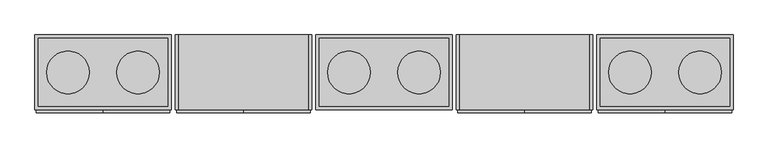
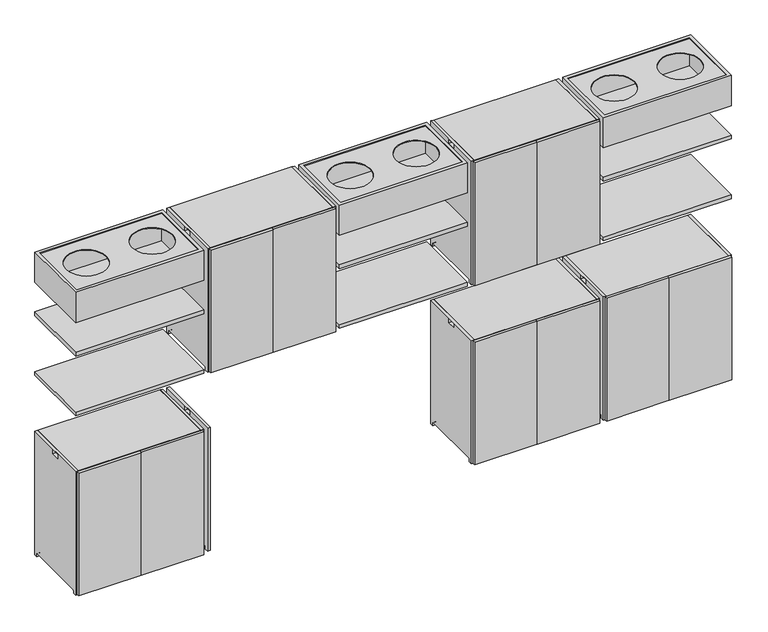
"""IFC4 building model written with IfcOpenShell, lengths in millimetres: furniture geometry, MAKR_TEMPLATE_800mmL : MAKR_TEMPLATE_800mmL."""

from ifc_helpers import new_model, si_unit, point, frame, frame_2d, origin, place, context, project, spatial, polyline, circle_curve, trimmed, segment, composite_curve, outline, extrude, source, transform, mapped, element, save
from ifc_brep_helpers import plane_surface, revolved_surface, advanced_brep


def furniture_05af1f72(model_context):
    return source(origin(), model_context, "Body", "SolidModel", [
        extrude(outline(polyline([(1250.0, 218.5217186), (2050.0, 218.5217186), (2050.0, -221.4782814), (1250.0, -221.4782814), (1250.0, 218.5217186)])), frame((0.0, 0.0, 1274.0), z_axis=(0.0, 0.0, 1.0), x_axis=(1.0, 0.0, 0.0)), (0.0, 0.0, 1.0), 25.0),
        extrude(outline(polyline([(-1250.0, 218.5217186), (-1250.0, -221.4782814), (-2050.0, -221.4782814), (-2050.0, 218.5217186), (-1250.0, 218.5217186)])), frame((0.0, 0.0, 1274.0), z_axis=(0.0, 0.0, 1.0), x_axis=(1.0, 0.0, 0.0)), (0.0, 0.0, 1.0), 25.0),
        extrude(outline(polyline([(400.0, 218.5217186), (400.0, -221.4782814), (-400.0, -221.4782814), (-400.0, 218.5217186), (400.0, 218.5217186)])), frame((0.0, 0.0, 1274.0), z_axis=(0.0, 0.0, 1.0), x_axis=(1.0, 0.0, 0.0)), (0.0, 0.0, 1.0), 25.0),
        extrude(outline(polyline([(1250.0, 218.5217186), (2050.0, 218.5217186), (2050.0, -221.4782814), (1250.0, -221.4782814), (1250.0, 218.5217186)])), frame((0.0, 0.0, 1669.0), z_axis=(0.0, 0.0, 1.0), x_axis=(1.0, 0.0, 0.0)), (0.0, 0.0, 1.0), 25.0),
        extrude(outline(polyline([(-1250.0, 218.5217186), (-1250.0, -221.4782814), (-2050.0, -221.4782814), (-2050.0, 218.5217186), (-1250.0, 218.5217186)])), frame((0.0, 0.0, 1669.0), z_axis=(0.0, 0.0, 1.0), x_axis=(1.0, 0.0, 0.0)), (0.0, 0.0, 1.0), 25.0),
        extrude(outline(polyline([(400.0, 218.5217186), (400.0, -221.4782814), (-400.0, -221.4782814), (-400.0, 218.5217186), (400.0, 218.5217186)])), frame((0.0, 0.0, 1669.0), z_axis=(0.0, 0.0, 1.0), x_axis=(1.0, 0.0, 0.0)), (0.0, 0.0, 1.0), 25.0),
        extrude(outline(polyline([(1250.0, 218.5217186), (2050.0, 218.5217186), (2050.0, -221.4782814), (1250.0, -221.4782814), (1250.0, 218.5217186)]), holes=[polyline([(2030.0, 198.5217186), (1270.0, 198.5217186), (1270.0, -201.4782814), (2030.0, -201.4782814), (2030.0, 198.5217186)])]), frame((0.0, 0.0, 1889.0), z_axis=(0.0, 0.0, 1.0), x_axis=(1.0, 0.0, 0.0)), (0.0, 0.0, 1.0), 200.0),
        extrude(outline(polyline([(1270.0, 198.5217186), (2030.0, 198.5217186), (2030.0, -201.4782814), (1270.0, -201.4782814), (1270.0, 198.5217186)])), frame((0.0, 0.0, 1889.0), z_axis=(0.0, 0.0, 1.0), x_axis=(1.0, 0.0, 0.0)), (0.0, 0.0, 1.0), 15.0),
        extrude(outline(polyline([(1270.0, 198.5217186), (2030.0, 198.5217186), (2030.0, -201.4782814), (1270.0, -201.4782814), (1270.0, 198.5217186)]), holes=[composite_curve([segment(trimmed(circle_curve(frame_2d((1856.0, -1.4782814)), 125.0), [point((1981.0, -1.4782814))], [point((1731.0, -1.4782814))], True, "CARTESIAN"), True, "CONTINUOUS"), segment(trimmed(circle_curve(frame_2d((1856.0, -1.4782814)), 125.0), [point((1731.0, -1.4782814))], [point((1981.0, -1.4782814))], True, "CARTESIAN"), True, "CONTINUOUS")], self_intersect=False), composite_curve([segment(trimmed(circle_curve(frame_2d((1444.0, -1.4782814)), 125.0), [point((1569.0, -1.4782814))], [point((1319.0, -1.4782814))], True, "CARTESIAN"), True, "CONTINUOUS"), segment(trimmed(circle_curve(frame_2d((1444.0, -1.4782814)), 125.0), [point((1319.0, -1.4782814))], [point((1569.0, -1.4782814))], True, "CARTESIAN"), True, "CONTINUOUS")], self_intersect=False)]), frame((0.0, 0.0, 2080.4363245), z_axis=(0.0, 0.0, 1.0), x_axis=(1.0, 0.0, 0.0)), (0.0, 0.0, 1.0), 3.5636755),
        extrude(outline(composite_curve([segment(polyline([(218.5217186, 2089.0), (218.5217186, 1274.0), (196.5217186, 1274.0), (196.5217186, 1291.0)]), True, "CONTINUOUS"), segment(trimmed(circle_curve(frame_2d((192.5217186, 1291.0)), 4.0), [point((196.5217186, 1291.0))], [point((192.5217186, 1295.0))], True, "CARTESIAN"), True, "CONTINUOUS"), segment(polyline([(192.5217186, 1295.0), (-195.4782814, 1295.0)]), True, "CONTINUOUS"), segment(trimmed(circle_curve(frame_2d((-195.4782814, 1291.0)), 4.0), [point((-195.4782814, 1295.0))], [point((-199.4782814, 1291.0))], True, "CARTESIAN"), True, "CONTINUOUS"), segment(polyline([(-199.4782814, 1291.0), (-199.4782814, 1274.0), (-221.4782814, 1274.0), (-221.4782814, 2089.0), (218.5217186, 2089.0)]), True, "CONTINUOUS")], self_intersect=False), holes=[polyline([(-27.4782814, 2059.0), (24.5217186, 2059.0), (24.5217186, 2084.0), (-27.4782814, 2084.0), (-27.4782814, 2059.0)])]), frame((1207.0, 0.0, 0.0), z_axis=(1.0, 0.0, 0.0), x_axis=(0.0, 1.0, 0.0)), (0.0, 0.0, 1.0), 18.0),
        advanced_brep(
        [(443.0, 218.5217186, 1292.0), (443.0, -221.4782814, 1292.0), (1207.0, -221.4782814, 1292.0), (1207.0, -199.3512647, 1292.0), (1201.1019215, -199.3512647, 1292.0), (1201.1019215, 196.394702, 1292.0), (1207.0, 196.394702, 1292.0), (1207.0, 218.5217186, 1292.0), (443.0, 218.5217186, 1274.0), (1207.0, 218.5217186, 1274.0), (1207.0, 196.5217186, 1274.0), (1201.1019215, 196.5217186, 1274.0), (1201.1019215, -199.4782814, 1274.0), (1207.0, -199.4782814, 1274.0), (1207.0, -221.4782814, 1274.0), (443.0, -221.4782814, 1274.0), (1207.0, 196.5217186, 1291.0), (1207.0, -199.4782814, 1291.0), (1201.1019215, 196.5217186, 1291.0), (1201.1019215, -199.4782814, 1291.0)],
        [
            (0, 1),
            (1, 2),
            (2, 3),
            (3, 4),
            (4, 5),
            (5, 6),
            (6, 7),
            (7, 0),
            (8, 9),
            (9, 10),
            (10, 11),
            (11, 12),
            (12, 13),
            (13, 14),
            (14, 15),
            (15, 8),
            (7, 9),
            (8, 0),
            (6, 16, circle_curve(frame((1207.0, 192.5217186, 1291.0), z_axis=(-1.0, 0.0, 0.0), x_axis=(0.0, 1.0, 0.0)), 4.0)),
            (16, 10),
            (13, 17),
            (17, 3, circle_curve(frame((1207.0, -195.4782814, 1291.0), z_axis=(-1.0, 0.0, 0.0), x_axis=(0.0, 1.0, 0.0)), 4.0)),
            (2, 14),
            (1, 15),
            (18, 5, circle_curve(frame((1201.1019215, 192.5217186, 1291.0), z_axis=(1.0, 0.0, 0.0), x_axis=(0.0, 1.0, 0.0)), 4.0)),
            (4, 19, circle_curve(frame((1201.1019215, -195.4782814, 1291.0), z_axis=(1.0, 0.0, 0.0), x_axis=(0.0, 1.0, 0.0)), 4.0)),
            (19, 12),
            (11, 18),
            (17, 19),
            (16, 18),
        ],
        [
            plane_surface(frame((1207.0, 218.5217186, 1292.0), z_axis=(0.0, 0.0, 1.0), x_axis=(1.0, 0.0, 0.0))),
            plane_surface(frame((1207.0, 218.5217186, 1274.0), z_axis=(0.0, 0.0, -1.0), x_axis=(-1.0, 0.0, 0.0))),
            plane_surface(frame((443.0, 218.5217186, 1292.0), z_axis=(0.0, 1.0, 0.0), x_axis=(0.0, 0.0, -1.0))),
            plane_surface(frame((1207.0, 218.5217186, 1292.0), z_axis=(1.0, 0.0, 0.0), x_axis=(0.0, 0.0, -1.0))),
            plane_surface(frame((1207.0, -221.4782814, 1292.0), z_axis=(0.0, -1.0, 0.0), x_axis=(0.0, 0.0, -1.0))),
            plane_surface(frame((443.0, -221.4782814, 1292.0), z_axis=(-1.0, 0.0, 0.0), x_axis=(0.0, 0.0, -1.0))),
            plane_surface(frame((1201.1019215, -191.4782814, 1291.0), z_axis=(1.0, 0.0, 0.0), x_axis=(0.0, 0.0, 1.0))),
            revolved_surface(polyline([(1201.1019215, -191.4782814, 1291.0), (1207.0, -191.4782814, 1291.0)]), (1231.0458228, -195.4782814, 1291.0), (-1.0, 0.0, 0.0)),
            plane_surface(frame((1201.1019215, -199.4782814, 1291.0), z_axis=(0.0, 1.0, 0.0), x_axis=(1.0, 0.0, 0.0))),
            plane_surface(frame((1201.1019215, 196.5217186, 1274.0), z_axis=(0.0, -1.0, 0.0), x_axis=(1.0, 0.0, 0.0))),
            revolved_surface(polyline([(1201.1019215, 196.5217186, 1291.0), (1207.0, 196.5217186, 1291.0)]), (1231.0458228, 192.5217186, 1291.0), (-1.0, 0.0, 0.0)),
        ],
        [
            (0, [[1, 2, 3, 4, 5, 6, 7, 8]]),
            (1, [[9, 10, 11, 12, 13, 14, 15, 16]]),
            (2, [[17, -9, 18, -8]]),
            (3, [[-7, 19, 20, -10, -17]]),
            (3, [[-14, 21, 22, -3, 23]]),
            (4, [[24, -15, -23, -2]]),
            (5, [[-18, -16, -24, -1]]),
            (6, [[25, -5, 26, 27, -12, 28]]),
            (7, [[-4, -22, 29, -26]]),
            (8, [[-29, -21, -13, -27]]),
            (9, [[-11, -20, 30, -28]]),
            (10, [[-30, -19, -6, -25]]),
        ],
    ),
        extrude(outline(composite_curve([segment(polyline([(218.5217186, 2089.0), (218.5217186, 1274.0), (196.5217186, 1274.0), (196.5217186, 1291.0)]), True, "CONTINUOUS"), segment(trimmed(circle_curve(frame_2d((192.5217186, 1291.0)), 4.0), [point((196.5217186, 1291.0))], [point((192.5217186, 1295.0))], True, "CARTESIAN"), True, "CONTINUOUS"), segment(polyline([(192.5217186, 1295.0), (-195.4782814, 1295.0)]), True, "CONTINUOUS"), segment(trimmed(circle_curve(frame_2d((-195.4782814, 1291.0)), 4.0), [point((-195.4782814, 1295.0))], [point((-199.4782814, 1291.0))], True, "CARTESIAN"), True, "CONTINUOUS"), segment(polyline([(-199.4782814, 1291.0), (-199.4782814, 1274.0), (-221.4782814, 1274.0), (-221.4782814, 2089.0), (218.5217186, 2089.0)]), True, "CONTINUOUS")], self_intersect=False), holes=[polyline([(-27.4782814, 2059.0), (24.5217186, 2059.0), (24.5217186, 2084.0), (-27.4782814, 2084.0), (-27.4782814, 2059.0)])]), frame((425.0, 0.0, 0.0), z_axis=(1.0, 0.0, 0.0), x_axis=(0.0, 1.0, 0.0)), (0.0, 0.0, 1.0), 18.0),
        extrude(outline(polyline([(443.0, 218.5217186), (1207.0, 218.5217186), (1207.0, 200.5217186), (443.0, 200.5217186), (443.0, 218.5217186)])), frame((0.0, 0.0, 1292.0), z_axis=(0.0, 0.0, 1.0), x_axis=(1.0, 0.0, 0.0)), (0.0, 0.0, 1.0), 779.0),
        extrude(outline(polyline([(443.0, 200.5217186), (1207.0, 200.5217186), (1207.0, -221.4782814), (443.0, -221.4782814), (443.0, 200.5217186)])), frame((0.0, 0.0, 1672.5), z_axis=(0.0, 0.0, 1.0), x_axis=(1.0, 0.0, 0.0)), (0.0, 0.0, 1.0), 18.0),
        extrude(outline(polyline([(443.0, 218.5217186), (1207.0, 218.5217186), (1207.0, -221.4782814), (443.0, -221.4782814), (443.0, 218.5217186)])), frame((0.0, 0.0, 2071.0), z_axis=(0.0, 0.0, 1.0), x_axis=(1.0, 0.0, 0.0)), (0.0, 0.0, 1.0), 18.0),
        extrude(outline(polyline([(816.0, 200.5217186), (834.0, 200.5217186), (834.0, -221.4782814), (816.0, -221.4782814), (816.0, 200.5217186)])), frame((0.0, 0.0, 1292.0), z_axis=(0.0, 0.0, 1.0), x_axis=(1.0, 0.0, 0.0)), (0.0, 0.0, 1.0), 779.0),
        extrude(outline(polyline([(434.0, -221.4782814), (824.0, -221.4782814), (824.0, -239.4782814), (434.0, -239.4782814), (434.0, -221.4782814)])), frame((0.0, 0.0, 1276.0), z_axis=(0.0, 0.0, 1.0), x_axis=(1.0, 0.0, 0.0)), (0.0, 0.0, 1.0), 811.0),
        extrude(outline(polyline([(1216.0, -221.4782814), (1216.0, -239.4782814), (826.0, -239.4782814), (826.0, -221.4782814), (1216.0, -221.4782814)])), frame((0.0, 0.0, 1276.0), z_axis=(0.0, 0.0, 1.0), x_axis=(1.0, 0.0, 0.0)), (0.0, 0.0, 1.0), 811.0),
        extrude(outline(polyline([(-1250.0, 218.5217186), (-1250.0, -221.4782814), (-2050.0, -221.4782814), (-2050.0, 218.5217186), (-1250.0, 218.5217186)]), holes=[polyline([(-2030.0, 198.5217186), (-2030.0, -201.4782814), (-1270.0, -201.4782814), (-1270.0, 198.5217186), (-2030.0, 198.5217186)])]), frame((0.0, 0.0, 1889.0), z_axis=(0.0, 0.0, 1.0), x_axis=(1.0, 0.0, 0.0)), (0.0, 0.0, 1.0), 200.0),
        extrude(outline(polyline([(-1270.0, 198.5217186), (-1270.0, -201.4782814), (-2030.0, -201.4782814), (-2030.0, 198.5217186), (-1270.0, 198.5217186)])), frame((0.0, 0.0, 1889.0), z_axis=(0.0, 0.0, 1.0), x_axis=(1.0, 0.0, 0.0)), (0.0, 0.0, 1.0), 15.0),
        extrude(outline(polyline([(-1270.0, 198.5217186), (-1270.0, -201.4782814), (-2030.0, -201.4782814), (-2030.0, 198.5217186), (-1270.0, 198.5217186)]), holes=[composite_curve([segment(trimmed(circle_curve(frame_2d((-1856.0, -1.4782814)), 125.0), [point((-1981.0, -1.4782814))], [point((-1731.0, -1.4782814))], True, "CARTESIAN"), True, "CONTINUOUS"), segment(trimmed(circle_curve(frame_2d((-1856.0, -1.4782814)), 125.0), [point((-1731.0, -1.4782814))], [point((-1981.0, -1.4782814))], True, "CARTESIAN"), True, "CONTINUOUS")], self_intersect=False), composite_curve([segment(trimmed(circle_curve(frame_2d((-1444.0, -1.4782814)), 125.0), [point((-1569.0, -1.4782814))], [point((-1319.0, -1.4782814))], True, "CARTESIAN"), True, "CONTINUOUS"), segment(trimmed(circle_curve(frame_2d((-1444.0, -1.4782814)), 125.0), [point((-1319.0, -1.4782814))], [point((-1569.0, -1.4782814))], True, "CARTESIAN"), True, "CONTINUOUS")], self_intersect=False)]), frame((0.0, 0.0, 2080.4363245), z_axis=(0.0, 0.0, 1.0), x_axis=(1.0, 0.0, 0.0)), (0.0, 0.0, 1.0), 3.5636755),
        extrude(outline(composite_curve([segment(polyline([(-221.4782814, 2089.0), (218.5217186, 2089.0), (218.5217186, 1274.0), (196.5217186, 1274.0), (196.5217186, 1291.0)]), True, "CONTINUOUS"), segment(trimmed(circle_curve(frame_2d((192.5217186, 1291.0)), 4.0), [point((196.5217186, 1291.0))], [point((192.5217186, 1295.0))], True, "CARTESIAN"), True, "CONTINUOUS"), segment(polyline([(192.5217186, 1295.0), (-195.4782814, 1295.0)]), True, "CONTINUOUS"), segment(trimmed(circle_curve(frame_2d((-195.4782814, 1291.0)), 4.0), [point((-195.4782814, 1295.0))], [point((-199.4782814, 1291.0))], True, "CARTESIAN"), True, "CONTINUOUS"), segment(polyline([(-199.4782814, 1291.0), (-199.4782814, 1274.0), (-221.4782814, 1274.0), (-221.4782814, 2089.0)]), True, "CONTINUOUS")], self_intersect=False), holes=[polyline([(-27.4782814, 2084.0), (-27.4782814, 2059.0), (24.5217186, 2059.0), (24.5217186, 2084.0), (-27.4782814, 2084.0)])]), frame((-1225.0, 0.0, 0.0), z_axis=(1.0, 0.0, 0.0), x_axis=(0.0, 1.0, 0.0)), (0.0, 0.0, 1.0), 18.0),
        advanced_brep(
        [(-443.0, 218.5217186, 1292.0), (-1207.0, 218.5217186, 1292.0), (-1207.0, 196.394702, 1292.0), (-1201.1019215, 196.394702, 1292.0), (-1201.1019215, -199.3512647, 1292.0), (-1207.0, -199.3512647, 1292.0), (-1207.0, -221.4782814, 1292.0), (-443.0, -221.4782814, 1292.0), (-443.0, 218.5217186, 1274.0), (-443.0, -221.4782814, 1274.0), (-1207.0, -221.4782814, 1274.0), (-1207.0, -199.4782814, 1274.0), (-1201.1019215, -199.4782814, 1274.0), (-1201.1019215, 196.5217186, 1274.0), (-1207.0, 196.5217186, 1274.0), (-1207.0, 218.5217186, 1274.0), (-1207.0, 196.5217186, 1291.0), (-1207.0, -199.4782814, 1291.0), (-1201.1019215, 196.5217186, 1291.0), (-1201.1019215, -199.4782814, 1291.0)],
        [
            (0, 1),
            (1, 2),
            (2, 3),
            (3, 4),
            (4, 5),
            (5, 6),
            (6, 7),
            (7, 0),
            (8, 9),
            (9, 10),
            (10, 11),
            (11, 12),
            (12, 13),
            (13, 14),
            (14, 15),
            (15, 8),
            (0, 8),
            (15, 1),
            (14, 16),
            (16, 2, circle_curve(frame((-1207.0, 192.5217186, 1291.0), z_axis=(1.0, 0.0, 0.0), x_axis=(0.0, 1.0, 0.0)), 4.0)),
            (10, 6),
            (5, 17, circle_curve(frame((-1207.0, -195.4782814, 1291.0), z_axis=(1.0, 0.0, 0.0), x_axis=(0.0, 1.0, 0.0)), 4.0)),
            (17, 11),
            (9, 7),
            (18, 13),
            (12, 19),
            (19, 4, circle_curve(frame((-1201.1019215, -195.4782814, 1291.0), z_axis=(-1.0, 0.0, 0.0), x_axis=(0.0, 1.0, 0.0)), 4.0)),
            (3, 18, circle_curve(frame((-1201.1019215, 192.5217186, 1291.0), z_axis=(-1.0, 0.0, 0.0), x_axis=(0.0, 1.0, 0.0)), 4.0)),
            (19, 17),
            (18, 16),
        ],
        [
            plane_surface(frame((-1207.0, 218.5217186, 1292.0), z_axis=(0.0, 0.0, 1.0), x_axis=(-1.0, 0.0, 0.0))),
            plane_surface(frame((-1207.0, 218.5217186, 1274.0), z_axis=(0.0, 0.0, -1.0), x_axis=(1.0, 0.0, 0.0))),
            plane_surface(frame((-443.0, 218.5217186, 1292.0), z_axis=(0.0, 1.0, 0.0), x_axis=(0.0, 0.0, -1.0))),
            plane_surface(frame((-1207.0, 218.5217186, 1292.0), z_axis=(-1.0, 0.0, 0.0), x_axis=(0.0, 0.0, -1.0))),
            plane_surface(frame((-1207.0, -221.4782814, 1292.0), z_axis=(0.0, -1.0, 0.0), x_axis=(0.0, 0.0, -1.0))),
            plane_surface(frame((-443.0, -221.4782814, 1292.0), z_axis=(1.0, 0.0, 0.0), x_axis=(0.0, 0.0, -1.0))),
            plane_surface(frame((-1201.1019215, -191.4782814, 1291.0), z_axis=(-1.0, 0.0, 0.0), x_axis=(0.0, 0.0, 1.0))),
            revolved_surface(polyline([(-1201.1019215, -191.4782814, 1291.0), (-1207.0, -191.4782814, 1291.0)]), (-1231.0458228, -195.4782814, 1291.0), (1.0, 0.0, 0.0)),
            plane_surface(frame((-1201.1019215, -199.4782814, 1291.0), z_axis=(0.0, 1.0, 0.0), x_axis=(-1.0, 0.0, 0.0))),
            plane_surface(frame((-1201.1019215, 196.5217186, 1274.0), z_axis=(0.0, -1.0, 0.0), x_axis=(-1.0, 0.0, 0.0))),
            revolved_surface(polyline([(-1201.1019215, 196.5217186, 1291.0), (-1207.0, 196.5217186, 1291.0)]), (-1231.0458228, 192.5217186, 1291.0), (1.0, 0.0, 0.0)),
        ],
        [
            (0, [[1, 2, 3, 4, 5, 6, 7, 8]]),
            (1, [[9, 10, 11, 12, 13, 14, 15, 16]]),
            (2, [[-1, 17, -16, 18]]),
            (3, [[-18, -15, 19, 20, -2]]),
            (3, [[21, -6, 22, 23, -11]]),
            (4, [[-7, -21, -10, 24]]),
            (5, [[-8, -24, -9, -17]]),
            (6, [[25, -13, 26, 27, -4, 28]]),
            (7, [[-27, 29, -22, -5]]),
            (8, [[-26, -12, -23, -29]]),
            (9, [[-25, 30, -19, -14]]),
            (10, [[-28, -3, -20, -30]]),
        ],
    ),
        extrude(outline(composite_curve([segment(polyline([(-221.4782814, 2089.0), (218.5217186, 2089.0), (218.5217186, 1274.0), (196.5217186, 1274.0), (196.5217186, 1291.0)]), True, "CONTINUOUS"), segment(trimmed(circle_curve(frame_2d((192.5217186, 1291.0)), 4.0), [point((196.5217186, 1291.0))], [point((192.5217186, 1295.0))], True, "CARTESIAN"), True, "CONTINUOUS"), segment(polyline([(192.5217186, 1295.0), (-195.4782814, 1295.0)]), True, "CONTINUOUS"), segment(trimmed(circle_curve(frame_2d((-195.4782814, 1291.0)), 4.0), [point((-195.4782814, 1295.0))], [point((-199.4782814, 1291.0))], True, "CARTESIAN"), True, "CONTINUOUS"), segment(polyline([(-199.4782814, 1291.0), (-199.4782814, 1274.0), (-221.4782814, 1274.0), (-221.4782814, 2089.0)]), True, "CONTINUOUS")], self_intersect=False), holes=[polyline([(-27.4782814, 2084.0), (-27.4782814, 2059.0), (24.5217186, 2059.0), (24.5217186, 2084.0), (-27.4782814, 2084.0)])]), frame((-443.0, 0.0, 0.0), z_axis=(1.0, 0.0, 0.0), x_axis=(0.0, 1.0, 0.0)), (0.0, 0.0, 1.0), 18.0),
        extrude(outline(polyline([(-443.0, 218.5217186), (-443.0, 200.5217186), (-1207.0, 200.5217186), (-1207.0, 218.5217186), (-443.0, 218.5217186)])), frame((0.0, 0.0, 1292.0), z_axis=(0.0, 0.0, 1.0), x_axis=(1.0, 0.0, 0.0)), (0.0, 0.0, 1.0), 779.0),
        extrude(outline(polyline([(-443.0, 200.5217186), (-443.0, -221.4782814), (-1207.0, -221.4782814), (-1207.0, 200.5217186), (-443.0, 200.5217186)])), frame((0.0, 0.0, 1672.5), z_axis=(0.0, 0.0, 1.0), x_axis=(1.0, 0.0, 0.0)), (0.0, 0.0, 1.0), 18.0),
        extrude(outline(polyline([(-443.0, 218.5217186), (-443.0, -221.4782814), (-1207.0, -221.4782814), (-1207.0, 218.5217186), (-443.0, 218.5217186)])), frame((0.0, 0.0, 2071.0), z_axis=(0.0, 0.0, 1.0), x_axis=(1.0, 0.0, 0.0)), (0.0, 0.0, 1.0), 18.0),
        extrude(outline(polyline([(-816.0, 200.5217186), (-816.0, -221.4782814), (-834.0, -221.4782814), (-834.0, 200.5217186), (-816.0, 200.5217186)])), frame((0.0, 0.0, 1292.0), z_axis=(0.0, 0.0, 1.0), x_axis=(1.0, 0.0, 0.0)), (0.0, 0.0, 1.0), 779.0),
        extrude(outline(polyline([(-434.0, -221.4782814), (-434.0, -239.4782814), (-824.0, -239.4782814), (-824.0, -221.4782814), (-434.0, -221.4782814)])), frame((0.0, 0.0, 1276.0), z_axis=(0.0, 0.0, 1.0), x_axis=(1.0, 0.0, 0.0)), (0.0, 0.0, 1.0), 811.0),
        extrude(outline(polyline([(-1216.0, -221.4782814), (-826.0, -221.4782814), (-826.0, -239.4782814), (-1216.0, -239.4782814), (-1216.0, -221.4782814)])), frame((0.0, 0.0, 1276.0), z_axis=(0.0, 0.0, 1.0), x_axis=(1.0, 0.0, 0.0)), (0.0, 0.0, 1.0), 811.0),
        extrude(outline(polyline([(400.0, 218.5217186), (400.0, -221.4782814), (-400.0, -221.4782814), (-400.0, 218.5217186), (400.0, 218.5217186)]), holes=[polyline([(-380.0, 198.5217186), (-380.0, -201.4782814), (380.0, -201.4782814), (380.0, 198.5217186), (-380.0, 198.5217186)])]), frame((0.0, 0.0, 1889.0), z_axis=(0.0, 0.0, 1.0), x_axis=(1.0, 0.0, 0.0)), (0.0, 0.0, 1.0), 200.0),
        extrude(outline(polyline([(380.0, 198.5217186), (380.0, -201.4782814), (-380.0, -201.4782814), (-380.0, 198.5217186), (380.0, 198.5217186)])), frame((0.0, 0.0, 1889.0), z_axis=(0.0, 0.0, 1.0), x_axis=(1.0, 0.0, 0.0)), (0.0, 0.0, 1.0), 15.0),
        extrude(outline(polyline([(380.0, 198.5217186), (380.0, -201.4782814), (-380.0, -201.4782814), (-380.0, 198.5217186), (380.0, 198.5217186)]), holes=[composite_curve([segment(trimmed(circle_curve(frame_2d((-206.0, -1.4782814)), 125.0), [point((-331.0, -1.4782814))], [point((-81.0, -1.4782814))], True, "CARTESIAN"), True, "CONTINUOUS"), segment(trimmed(circle_curve(frame_2d((-206.0, -1.4782814)), 125.0), [point((-81.0, -1.4782814))], [point((-331.0, -1.4782814))], True, "CARTESIAN"), True, "CONTINUOUS")], self_intersect=False), composite_curve([segment(trimmed(circle_curve(frame_2d((206.0, -1.4782814)), 125.0), [point((81.0, -1.4782814))], [point((331.0, -1.4782814))], True, "CARTESIAN"), True, "CONTINUOUS"), segment(trimmed(circle_curve(frame_2d((206.0, -1.4782814)), 125.0), [point((331.0, -1.4782814))], [point((81.0, -1.4782814))], True, "CARTESIAN"), True, "CONTINUOUS")], self_intersect=False)]), frame((0.0, 0.0, 2080.4363245), z_axis=(0.0, 0.0, 1.0), x_axis=(1.0, 0.0, 0.0)), (0.0, 0.0, 1.0), 3.5636755),
        extrude(outline(composite_curve([segment(polyline([(218.5217186, 904.0), (218.5217186, 89.0), (196.5217186, 89.0), (196.5217186, 106.0)]), True, "CONTINUOUS"), segment(trimmed(circle_curve(frame_2d((192.5217186, 106.0)), 4.0), [point((196.5217186, 106.0))], [point((192.5217186, 110.0))], True, "CARTESIAN"), True, "CONTINUOUS"), segment(polyline([(192.5217186, 110.0), (-195.4782814, 110.0)]), True, "CONTINUOUS"), segment(trimmed(circle_curve(frame_2d((-195.4782814, 106.0)), 4.0), [point((-195.4782814, 110.0))], [point((-199.4782814, 106.0))], True, "CARTESIAN"), True, "CONTINUOUS"), segment(polyline([(-199.4782814, 106.0), (-199.4782814, 89.0), (-221.4782814, 89.0), (-221.4782814, 904.0), (218.5217186, 904.0)]), True, "CONTINUOUS")], self_intersect=False), holes=[polyline([(-27.4782814, 874.0), (24.5217186, 874.0), (24.5217186, 899.0), (-27.4782814, 899.0), (-27.4782814, 874.0)])]), frame((2032.0, 0.0, 0.0), z_axis=(1.0, 0.0, 0.0), x_axis=(0.0, 1.0, 0.0)), (0.0, 0.0, 1.0), 18.0),
        advanced_brep(
        [(1268.0, 218.5217186, 107.0), (1268.0, -221.4782814, 107.0), (2032.0, -221.4782814, 107.0), (2032.0, -199.3512647, 107.0), (2026.1019215, -199.3512647, 107.0), (2026.1019215, 196.394702, 107.0), (2032.0, 196.394702, 107.0), (2032.0, 218.5217186, 107.0), (1268.0, 218.5217186, 89.0), (2032.0, 218.5217186, 89.0), (2032.0, 196.5217186, 89.0), (2026.1019215, 196.5217186, 89.0), (2026.1019215, -199.4782814, 89.0), (2032.0, -199.4782814, 89.0), (2032.0, -221.4782814, 89.0), (1268.0, -221.4782814, 89.0), (2032.0, 196.5217186, 106.0), (2032.0, -199.4782814, 106.0), (2026.1019215, 196.5217186, 106.0), (2026.1019215, -199.4782814, 106.0)],
        [
            (0, 1),
            (1, 2),
            (2, 3),
            (3, 4),
            (4, 5),
            (5, 6),
            (6, 7),
            (7, 0),
            (8, 9),
            (9, 10),
            (10, 11),
            (11, 12),
            (12, 13),
            (13, 14),
            (14, 15),
            (15, 8),
            (7, 9),
            (8, 0),
            (6, 16, circle_curve(frame((2032.0, 192.5217186, 106.0), z_axis=(-1.0, 0.0, 0.0), x_axis=(0.0, 1.0, 0.0)), 4.0)),
            (16, 10),
            (13, 17),
            (17, 3, circle_curve(frame((2032.0, -195.4782814, 106.0), z_axis=(-1.0, 0.0, 0.0), x_axis=(0.0, 1.0, 0.0)), 4.0)),
            (2, 14),
            (1, 15),
            (18, 5, circle_curve(frame((2026.1019215, 192.5217186, 106.0), z_axis=(1.0, 0.0, 0.0), x_axis=(0.0, 1.0, 0.0)), 4.0)),
            (4, 19, circle_curve(frame((2026.1019215, -195.4782814, 106.0), z_axis=(1.0, 0.0, 0.0), x_axis=(0.0, 1.0, 0.0)), 4.0)),
            (19, 12),
            (11, 18),
            (17, 19),
            (16, 18),
        ],
        [
            plane_surface(frame((2032.0, 218.5217186, 107.0), z_axis=(0.0, 0.0, 1.0), x_axis=(1.0, 0.0, 0.0))),
            plane_surface(frame((2032.0, 218.5217186, 89.0), z_axis=(0.0, 0.0, -1.0), x_axis=(-1.0, 0.0, 0.0))),
            plane_surface(frame((1268.0, 218.5217186, 107.0), z_axis=(0.0, 1.0, 0.0), x_axis=(0.0, 0.0, -1.0))),
            plane_surface(frame((2032.0, 218.5217186, 107.0), z_axis=(1.0, 0.0, 0.0), x_axis=(0.0, 0.0, -1.0))),
            plane_surface(frame((2032.0, -221.4782814, 107.0), z_axis=(0.0, -1.0, 0.0), x_axis=(0.0, 0.0, -1.0))),
            plane_surface(frame((1268.0, -221.4782814, 107.0), z_axis=(-1.0, 0.0, 0.0), x_axis=(0.0, 0.0, -1.0))),
            plane_surface(frame((2026.1019215, -191.4782814, 106.0), z_axis=(1.0, 0.0, 0.0), x_axis=(0.0, 0.0, 1.0))),
            revolved_surface(polyline([(2026.1019215, -191.4782814, 106.0), (2032.0, -191.4782814, 106.0)]), (2056.0458228, -195.4782814, 106.0), (-1.0, 0.0, 0.0)),
            plane_surface(frame((2026.1019215, -199.4782814, 106.0), z_axis=(0.0, 1.0, 0.0), x_axis=(1.0, 0.0, 0.0))),
            plane_surface(frame((2026.1019215, 196.5217186, 89.0), z_axis=(0.0, -1.0, 0.0), x_axis=(1.0, 0.0, 0.0))),
            revolved_surface(polyline([(2026.1019215, 196.5217186, 106.0), (2032.0, 196.5217186, 106.0)]), (2056.0458228, 192.5217186, 106.0), (-1.0, 0.0, 0.0)),
        ],
        [
            (0, [[1, 2, 3, 4, 5, 6, 7, 8]]),
            (1, [[9, 10, 11, 12, 13, 14, 15, 16]]),
            (2, [[17, -9, 18, -8]]),
            (3, [[-7, 19, 20, -10, -17]]),
            (3, [[-14, 21, 22, -3, 23]]),
            (4, [[24, -15, -23, -2]]),
            (5, [[-18, -16, -24, -1]]),
            (6, [[25, -5, 26, 27, -12, 28]]),
            (7, [[-4, -22, 29, -26]]),
            (8, [[-29, -21, -13, -27]]),
            (9, [[-11, -20, 30, -28]]),
            (10, [[-30, -19, -6, -25]]),
        ],
    ),
        extrude(outline(composite_curve([segment(polyline([(218.5217186, 904.0), (218.5217186, 89.0), (196.5217186, 89.0), (196.5217186, 106.0)]), True, "CONTINUOUS"), segment(trimmed(circle_curve(frame_2d((192.5217186, 106.0)), 4.0), [point((196.5217186, 106.0))], [point((192.5217186, 110.0))], True, "CARTESIAN"), True, "CONTINUOUS"), segment(polyline([(192.5217186, 110.0), (-195.4782814, 110.0)]), True, "CONTINUOUS"), segment(trimmed(circle_curve(frame_2d((-195.4782814, 106.0)), 4.0), [point((-195.4782814, 110.0))], [point((-199.4782814, 106.0))], True, "CARTESIAN"), True, "CONTINUOUS"), segment(polyline([(-199.4782814, 106.0), (-199.4782814, 89.0), (-221.4782814, 89.0), (-221.4782814, 904.0), (218.5217186, 904.0)]), True, "CONTINUOUS")], self_intersect=False), holes=[polyline([(-27.4782814, 874.0), (24.5217186, 874.0), (24.5217186, 899.0), (-27.4782814, 899.0), (-27.4782814, 874.0)])]), frame((1250.0, 0.0, 0.0), z_axis=(1.0, 0.0, 0.0), x_axis=(0.0, 1.0, 0.0)), (0.0, 0.0, 1.0), 18.0),
        extrude(outline(polyline([(1268.0, 218.5217186), (2032.0, 218.5217186), (2032.0, 200.5217186), (1268.0, 200.5217186), (1268.0, 218.5217186)])), frame((0.0, 0.0, 107.0), z_axis=(0.0, 0.0, 1.0), x_axis=(1.0, 0.0, 0.0)), (0.0, 0.0, 1.0), 779.0),
        extrude(outline(polyline([(1268.0, 200.5217186), (2032.0, 200.5217186), (2032.0, -221.4782814), (1268.0, -221.4782814), (1268.0, 200.5217186)])), frame((0.0, 0.0, 487.5), z_axis=(0.0, 0.0, 1.0), x_axis=(1.0, 0.0, 0.0)), (0.0, 0.0, 1.0), 18.0),
        extrude(outline(polyline([(1268.0, 218.5217186), (2032.0, 218.5217186), (2032.0, -221.4782814), (1268.0, -221.4782814), (1268.0, 218.5217186)])), frame((0.0, 0.0, 886.0), z_axis=(0.0, 0.0, 1.0), x_axis=(1.0, 0.0, 0.0)), (0.0, 0.0, 1.0), 18.0),
        extrude(outline(polyline([(1641.0, 200.5217186), (1659.0, 200.5217186), (1659.0, -221.4782814), (1641.0, -221.4782814), (1641.0, 200.5217186)])), frame((0.0, 0.0, 107.0), z_axis=(0.0, 0.0, 1.0), x_axis=(1.0, 0.0, 0.0)), (0.0, 0.0, 1.0), 779.0),
        extrude(outline(polyline([(1259.0, -221.4782814), (1649.0, -221.4782814), (1649.0, -239.4782814), (1259.0, -239.4782814), (1259.0, -221.4782814)])), frame((0.0, 0.0, 91.0), z_axis=(0.0, 0.0, 1.0), x_axis=(1.0, 0.0, 0.0)), (0.0, 0.0, 1.0), 811.0),
        extrude(outline(polyline([(2041.0, -221.4782814), (2041.0, -239.4782814), (1651.0, -239.4782814), (1651.0, -221.4782814), (2041.0, -221.4782814)])), frame((0.0, 0.0, 91.0), z_axis=(0.0, 0.0, 1.0), x_axis=(1.0, 0.0, 0.0)), (0.0, 0.0, 1.0), 811.0),
        extrude(outline(composite_curve([segment(polyline([(218.5217186, 904.0), (218.5217186, 89.0), (196.5217186, 89.0), (196.5217186, 106.0)]), True, "CONTINUOUS"), segment(trimmed(circle_curve(frame_2d((192.5217186, 106.0)), 4.0), [point((196.5217186, 106.0))], [point((192.5217186, 110.0))], True, "CARTESIAN"), True, "CONTINUOUS"), segment(polyline([(192.5217186, 110.0), (-195.4782814, 110.0)]), True, "CONTINUOUS"), segment(trimmed(circle_curve(frame_2d((-195.4782814, 106.0)), 4.0), [point((-195.4782814, 110.0))], [point((-199.4782814, 106.0))], True, "CARTESIAN"), True, "CONTINUOUS"), segment(polyline([(-199.4782814, 106.0), (-199.4782814, 89.0), (-221.4782814, 89.0), (-221.4782814, 904.0), (218.5217186, 904.0)]), True, "CONTINUOUS")], self_intersect=False), holes=[polyline([(-27.4782814, 874.0), (24.5217186, 874.0), (24.5217186, 899.0), (-27.4782814, 899.0), (-27.4782814, 874.0)])]), frame((1207.0, 0.0, 0.0), z_axis=(1.0, 0.0, 0.0), x_axis=(0.0, 1.0, 0.0)), (0.0, 0.0, 1.0), 18.0),
        advanced_brep(
        [(443.0, 218.5217186, 107.0), (443.0, -221.4782814, 107.0), (1207.0, -221.4782814, 107.0), (1207.0, -199.3512647, 107.0), (1201.1019215, -199.3512647, 107.0), (1201.1019215, 196.394702, 107.0), (1207.0, 196.394702, 107.0), (1207.0, 218.5217186, 107.0), (443.0, 218.5217186, 89.0), (1207.0, 218.5217186, 89.0), (1207.0, 196.5217186, 89.0), (1201.1019215, 196.5217186, 89.0), (1201.1019215, -199.4782814, 89.0), (1207.0, -199.4782814, 89.0), (1207.0, -221.4782814, 89.0), (443.0, -221.4782814, 89.0), (1207.0, 196.5217186, 106.0), (1207.0, -199.4782814, 106.0), (1201.1019215, 196.5217186, 106.0), (1201.1019215, -199.4782814, 106.0)],
        [
            (0, 1),
            (1, 2),
            (2, 3),
            (3, 4),
            (4, 5),
            (5, 6),
            (6, 7),
            (7, 0),
            (8, 9),
            (9, 10),
            (10, 11),
            (11, 12),
            (12, 13),
            (13, 14),
            (14, 15),
            (15, 8),
            (7, 9),
            (8, 0),
            (6, 16, circle_curve(frame((1207.0, 192.5217186, 106.0), z_axis=(-1.0, 0.0, 0.0), x_axis=(0.0, 1.0, 0.0)), 4.0)),
            (16, 10),
            (13, 17),
            (17, 3, circle_curve(frame((1207.0, -195.4782814, 106.0), z_axis=(-1.0, 0.0, 0.0), x_axis=(0.0, 1.0, 0.0)), 4.0)),
            (2, 14),
            (1, 15),
            (18, 5, circle_curve(frame((1201.1019215, 192.5217186, 106.0), z_axis=(1.0, 0.0, 0.0), x_axis=(0.0, 1.0, 0.0)), 4.0)),
            (4, 19, circle_curve(frame((1201.1019215, -195.4782814, 106.0), z_axis=(1.0, 0.0, 0.0), x_axis=(0.0, 1.0, 0.0)), 4.0)),
            (19, 12),
            (11, 18),
            (17, 19),
            (16, 18),
        ],
        [
            plane_surface(frame((1207.0, 218.5217186, 107.0), z_axis=(0.0, 0.0, 1.0), x_axis=(1.0, 0.0, 0.0))),
            plane_surface(frame((1207.0, 218.5217186, 89.0), z_axis=(0.0, 0.0, -1.0), x_axis=(-1.0, 0.0, 0.0))),
            plane_surface(frame((443.0, 218.5217186, 107.0), z_axis=(0.0, 1.0, 0.0), x_axis=(0.0, 0.0, -1.0))),
            plane_surface(frame((1207.0, 218.5217186, 107.0), z_axis=(1.0, 0.0, 0.0), x_axis=(0.0, 0.0, -1.0))),
            plane_surface(frame((1207.0, -221.4782814, 107.0), z_axis=(0.0, -1.0, 0.0), x_axis=(0.0, 0.0, -1.0))),
            plane_surface(frame((443.0, -221.4782814, 107.0), z_axis=(-1.0, 0.0, 0.0), x_axis=(0.0, 0.0, -1.0))),
            plane_surface(frame((1201.1019215, -191.4782814, 106.0), z_axis=(1.0, 0.0, 0.0), x_axis=(0.0, 0.0, 1.0))),
            revolved_surface(polyline([(1201.1019215, -191.4782814, 106.0), (1207.0, -191.4782814, 106.0)]), (1231.0458228, -195.4782814, 106.0), (-1.0, 0.0, 0.0)),
            plane_surface(frame((1201.1019215, -199.4782814, 106.0), z_axis=(0.0, 1.0, 0.0), x_axis=(1.0, 0.0, 0.0))),
            plane_surface(frame((1201.1019215, 196.5217186, 89.0), z_axis=(0.0, -1.0, 0.0), x_axis=(1.0, 0.0, 0.0))),
            revolved_surface(polyline([(1201.1019215, 196.5217186, 106.0), (1207.0, 196.5217186, 106.0)]), (1231.0458228, 192.5217186, 106.0), (-1.0, 0.0, 0.0)),
        ],
        [
            (0, [[1, 2, 3, 4, 5, 6, 7, 8]]),
            (1, [[9, 10, 11, 12, 13, 14, 15, 16]]),
            (2, [[17, -9, 18, -8]]),
            (3, [[-7, 19, 20, -10, -17]]),
            (3, [[-14, 21, 22, -3, 23]]),
            (4, [[24, -15, -23, -2]]),
            (5, [[-18, -16, -24, -1]]),
            (6, [[25, -5, 26, 27, -12, 28]]),
            (7, [[-4, -22, 29, -26]]),
            (8, [[-29, -21, -13, -27]]),
            (9, [[-11, -20, 30, -28]]),
            (10, [[-30, -19, -6, -25]]),
        ],
    ),
        extrude(outline(composite_curve([segment(polyline([(218.5217186, 904.0), (218.5217186, 89.0), (196.5217186, 89.0), (196.5217186, 106.0)]), True, "CONTINUOUS"), segment(trimmed(circle_curve(frame_2d((192.5217186, 106.0)), 4.0), [point((196.5217186, 106.0))], [point((192.5217186, 110.0))], True, "CARTESIAN"), True, "CONTINUOUS"), segment(polyline([(192.5217186, 110.0), (-195.4782814, 110.0)]), True, "CONTINUOUS"), segment(trimmed(circle_curve(frame_2d((-195.4782814, 106.0)), 4.0), [point((-195.4782814, 110.0))], [point((-199.4782814, 106.0))], True, "CARTESIAN"), True, "CONTINUOUS"), segment(polyline([(-199.4782814, 106.0), (-199.4782814, 89.0), (-221.4782814, 89.0), (-221.4782814, 904.0), (218.5217186, 904.0)]), True, "CONTINUOUS")], self_intersect=False), holes=[polyline([(-27.4782814, 874.0), (24.5217186, 874.0), (24.5217186, 899.0), (-27.4782814, 899.0), (-27.4782814, 874.0)])]), frame((425.0, 0.0, 0.0), z_axis=(1.0, 0.0, 0.0), x_axis=(0.0, 1.0, 0.0)), (0.0, 0.0, 1.0), 18.0),
        extrude(outline(polyline([(443.0, 218.5217186), (1207.0, 218.5217186), (1207.0, 200.5217186), (443.0, 200.5217186), (443.0, 218.5217186)])), frame((0.0, 0.0, 107.0), z_axis=(0.0, 0.0, 1.0), x_axis=(1.0, 0.0, 0.0)), (0.0, 0.0, 1.0), 779.0),
        extrude(outline(polyline([(443.0, 200.5217186), (1207.0, 200.5217186), (1207.0, -221.4782814), (443.0, -221.4782814), (443.0, 200.5217186)])), frame((0.0, 0.0, 487.5), z_axis=(0.0, 0.0, 1.0), x_axis=(1.0, 0.0, 0.0)), (0.0, 0.0, 1.0), 18.0),
        extrude(outline(polyline([(443.0, 218.5217186), (1207.0, 218.5217186), (1207.0, -221.4782814), (443.0, -221.4782814), (443.0, 218.5217186)])), frame((0.0, 0.0, 886.0), z_axis=(0.0, 0.0, 1.0), x_axis=(1.0, 0.0, 0.0)), (0.0, 0.0, 1.0), 18.0),
        extrude(outline(polyline([(816.0, 200.5217186), (834.0, 200.5217186), (834.0, -221.4782814), (816.0, -221.4782814), (816.0, 200.5217186)])), frame((0.0, 0.0, 107.0), z_axis=(0.0, 0.0, 1.0), x_axis=(1.0, 0.0, 0.0)), (0.0, 0.0, 1.0), 779.0),
        extrude(outline(polyline([(434.0, -221.4782814), (824.0, -221.4782814), (824.0, -239.4782814), (434.0, -239.4782814), (434.0, -221.4782814)])), frame((0.0, 0.0, 91.0), z_axis=(0.0, 0.0, 1.0), x_axis=(1.0, 0.0, 0.0)), (0.0, 0.0, 1.0), 811.0),
        extrude(outline(polyline([(1216.0, -221.4782814), (1216.0, -239.4782814), (826.0, -239.4782814), (826.0, -221.4782814), (1216.0, -221.4782814)])), frame((0.0, 0.0, 91.0), z_axis=(0.0, 0.0, 1.0), x_axis=(1.0, 0.0, 0.0)), (0.0, 0.0, 1.0), 811.0),
        extrude(outline(composite_curve([segment(polyline([(-221.4782814, 904.0), (218.5217186, 904.0), (218.5217186, 89.0), (196.5217186, 89.0), (196.5217186, 106.0)]), True, "CONTINUOUS"), segment(trimmed(circle_curve(frame_2d((192.5217186, 106.0)), 4.0), [point((196.5217186, 106.0))], [point((192.5217186, 110.0))], True, "CARTESIAN"), True, "CONTINUOUS"), segment(polyline([(192.5217186, 110.0), (-195.4782814, 110.0)]), True, "CONTINUOUS"), segment(trimmed(circle_curve(frame_2d((-195.4782814, 106.0)), 4.0), [point((-195.4782814, 110.0))], [point((-199.4782814, 106.0))], True, "CARTESIAN"), True, "CONTINUOUS"), segment(polyline([(-199.4782814, 106.0), (-199.4782814, 89.0), (-221.4782814, 89.0), (-221.4782814, 904.0)]), True, "CONTINUOUS")], self_intersect=False), holes=[polyline([(-27.4782814, 899.0), (-27.4782814, 874.0), (24.5217186, 874.0), (24.5217186, 899.0), (-27.4782814, 899.0)])]), frame((-2050.0, 0.0, 0.0), z_axis=(1.0, 0.0, 0.0), x_axis=(0.0, 1.0, 0.0)), (0.0, 0.0, 1.0), 18.0),
        advanced_brep(
        [(-1268.0, 218.5217186, 107.0), (-2032.0, 218.5217186, 107.0), (-2032.0, 196.394702, 107.0), (-2026.1019215, 196.394702, 107.0), (-2026.1019215, -199.3512647, 107.0), (-2032.0, -199.3512647, 107.0), (-2032.0, -221.4782814, 107.0), (-1268.0, -221.4782814, 107.0), (-1268.0, 218.5217186, 89.0), (-1268.0, -221.4782814, 89.0), (-2032.0, -221.4782814, 89.0), (-2032.0, -199.4782814, 89.0), (-2026.1019215, -199.4782814, 89.0), (-2026.1019215, 196.5217186, 89.0), (-2032.0, 196.5217186, 89.0), (-2032.0, 218.5217186, 89.0), (-2032.0, 196.5217186, 106.0), (-2032.0, -199.4782814, 106.0), (-2026.1019215, 196.5217186, 106.0), (-2026.1019215, -199.4782814, 106.0)],
        [
            (0, 1),
            (1, 2),
            (2, 3),
            (3, 4),
            (4, 5),
            (5, 6),
            (6, 7),
            (7, 0),
            (8, 9),
            (9, 10),
            (10, 11),
            (11, 12),
            (12, 13),
            (13, 14),
            (14, 15),
            (15, 8),
            (0, 8),
            (15, 1),
            (14, 16),
            (16, 2, circle_curve(frame((-2032.0, 192.5217186, 106.0), z_axis=(1.0, 0.0, 0.0), x_axis=(0.0, 1.0, 0.0)), 4.0)),
            (10, 6),
            (5, 17, circle_curve(frame((-2032.0, -195.4782814, 106.0), z_axis=(1.0, 0.0, 0.0), x_axis=(0.0, 1.0, 0.0)), 4.0)),
            (17, 11),
            (9, 7),
            (18, 13),
            (12, 19),
            (19, 4, circle_curve(frame((-2026.1019215, -195.4782814, 106.0), z_axis=(-1.0, 0.0, 0.0), x_axis=(0.0, 1.0, 0.0)), 4.0)),
            (3, 18, circle_curve(frame((-2026.1019215, 192.5217186, 106.0), z_axis=(-1.0, 0.0, 0.0), x_axis=(0.0, 1.0, 0.0)), 4.0)),
            (19, 17),
            (18, 16),
        ],
        [
            plane_surface(frame((-2032.0, 218.5217186, 107.0), z_axis=(0.0, 0.0, 1.0), x_axis=(-1.0, 0.0, 0.0))),
            plane_surface(frame((-2032.0, 218.5217186, 89.0), z_axis=(0.0, 0.0, -1.0), x_axis=(1.0, 0.0, 0.0))),
            plane_surface(frame((-1268.0, 218.5217186, 107.0), z_axis=(0.0, 1.0, 0.0), x_axis=(0.0, 0.0, -1.0))),
            plane_surface(frame((-2032.0, 218.5217186, 107.0), z_axis=(-1.0, 0.0, 0.0), x_axis=(0.0, 0.0, -1.0))),
            plane_surface(frame((-2032.0, -221.4782814, 107.0), z_axis=(0.0, -1.0, 0.0), x_axis=(0.0, 0.0, -1.0))),
            plane_surface(frame((-1268.0, -221.4782814, 107.0), z_axis=(1.0, 0.0, 0.0), x_axis=(0.0, 0.0, -1.0))),
            plane_surface(frame((-2026.1019215, -191.4782814, 106.0), z_axis=(-1.0, 0.0, 0.0), x_axis=(0.0, 0.0, 1.0))),
            revolved_surface(polyline([(-2026.1019215, -191.4782814, 106.0), (-2032.0, -191.4782814, 106.0)]), (-2056.0458228, -195.4782814, 106.0), (1.0, 0.0, 0.0)),
            plane_surface(frame((-2026.1019215, -199.4782814, 106.0), z_axis=(0.0, 1.0, 0.0), x_axis=(-1.0, 0.0, 0.0))),
            plane_surface(frame((-2026.1019215, 196.5217186, 89.0), z_axis=(0.0, -1.0, 0.0), x_axis=(-1.0, 0.0, 0.0))),
            revolved_surface(polyline([(-2026.1019215, 196.5217186, 106.0), (-2032.0, 196.5217186, 106.0)]), (-2056.0458228, 192.5217186, 106.0), (1.0, 0.0, 0.0)),
        ],
        [
            (0, [[1, 2, 3, 4, 5, 6, 7, 8]]),
            (1, [[9, 10, 11, 12, 13, 14, 15, 16]]),
            (2, [[-1, 17, -16, 18]]),
            (3, [[-18, -15, 19, 20, -2]]),
            (3, [[21, -6, 22, 23, -11]]),
            (4, [[-7, -21, -10, 24]]),
            (5, [[-8, -24, -9, -17]]),
            (6, [[25, -13, 26, 27, -4, 28]]),
            (7, [[-27, 29, -22, -5]]),
            (8, [[-26, -12, -23, -29]]),
            (9, [[-25, 30, -19, -14]]),
            (10, [[-28, -3, -20, -30]]),
        ],
    ),
        extrude(outline(composite_curve([segment(polyline([(-221.4782814, 904.0), (218.5217186, 904.0), (218.5217186, 89.0), (196.5217186, 89.0), (196.5217186, 106.0)]), True, "CONTINUOUS"), segment(trimmed(circle_curve(frame_2d((192.5217186, 106.0)), 4.0), [point((196.5217186, 106.0))], [point((192.5217186, 110.0))], True, "CARTESIAN"), True, "CONTINUOUS"), segment(polyline([(192.5217186, 110.0), (-195.4782814, 110.0)]), True, "CONTINUOUS"), segment(trimmed(circle_curve(frame_2d((-195.4782814, 106.0)), 4.0), [point((-195.4782814, 110.0))], [point((-199.4782814, 106.0))], True, "CARTESIAN"), True, "CONTINUOUS"), segment(polyline([(-199.4782814, 106.0), (-199.4782814, 89.0), (-221.4782814, 89.0), (-221.4782814, 904.0)]), True, "CONTINUOUS")], self_intersect=False), holes=[polyline([(-27.4782814, 899.0), (-27.4782814, 874.0), (24.5217186, 874.0), (24.5217186, 899.0), (-27.4782814, 899.0)])]), frame((-1268.0, 0.0, 0.0), z_axis=(1.0, 0.0, 0.0), x_axis=(0.0, 1.0, 0.0)), (0.0, 0.0, 1.0), 18.0),
        extrude(outline(polyline([(-1268.0, 218.5217186), (-1268.0, 200.5217186), (-2032.0, 200.5217186), (-2032.0, 218.5217186), (-1268.0, 218.5217186)])), frame((0.0, 0.0, 107.0), z_axis=(0.0, 0.0, 1.0), x_axis=(1.0, 0.0, 0.0)), (0.0, 0.0, 1.0), 779.0),
        extrude(outline(polyline([(-1268.0, 200.5217186), (-1268.0, -221.4782814), (-2032.0, -221.4782814), (-2032.0, 200.5217186), (-1268.0, 200.5217186)])), frame((0.0, 0.0, 487.5), z_axis=(0.0, 0.0, 1.0), x_axis=(1.0, 0.0, 0.0)), (0.0, 0.0, 1.0), 18.0),
        extrude(outline(polyline([(-1268.0, 218.5217186), (-1268.0, -221.4782814), (-2032.0, -221.4782814), (-2032.0, 218.5217186), (-1268.0, 218.5217186)])), frame((0.0, 0.0, 886.0), z_axis=(0.0, 0.0, 1.0), x_axis=(1.0, 0.0, 0.0)), (0.0, 0.0, 1.0), 18.0),
        extrude(outline(polyline([(-1641.0, 200.5217186), (-1641.0, -221.4782814), (-1659.0, -221.4782814), (-1659.0, 200.5217186), (-1641.0, 200.5217186)])), frame((0.0, 0.0, 107.0), z_axis=(0.0, 0.0, 1.0), x_axis=(1.0, 0.0, 0.0)), (0.0, 0.0, 1.0), 779.0),
        extrude(outline(polyline([(-1259.0, -221.4782814), (-1259.0, -239.4782814), (-1649.0, -239.4782814), (-1649.0, -221.4782814), (-1259.0, -221.4782814)])), frame((0.0, 0.0, 91.0), z_axis=(0.0, 0.0, 1.0), x_axis=(1.0, 0.0, 0.0)), (0.0, 0.0, 1.0), 811.0),
        extrude(outline(polyline([(-2041.0, -221.4782814), (-1651.0, -221.4782814), (-1651.0, -239.4782814), (-2041.0, -239.4782814), (-2041.0, -221.4782814)])), frame((0.0, 0.0, 91.0), z_axis=(0.0, 0.0, 1.0), x_axis=(1.0, 0.0, 0.0)), (0.0, 0.0, 1.0), 811.0),
        extrude(outline(composite_curve([segment(polyline([(-221.4782814, 904.0), (218.5217186, 904.0), (218.5217186, 89.0), (196.5217186, 89.0), (196.5217186, 106.0)]), True, "CONTINUOUS"), segment(trimmed(circle_curve(frame_2d((192.5217186, 106.0)), 4.0), [point((196.5217186, 106.0))], [point((192.5217186, 110.0))], True, "CARTESIAN"), True, "CONTINUOUS"), segment(polyline([(192.5217186, 110.0), (-195.4782814, 110.0)]), True, "CONTINUOUS"), segment(trimmed(circle_curve(frame_2d((-195.4782814, 106.0)), 4.0), [point((-195.4782814, 110.0))], [point((-199.4782814, 106.0))], True, "CARTESIAN"), True, "CONTINUOUS"), segment(polyline([(-199.4782814, 106.0), (-199.4782814, 89.0), (-221.4782814, 89.0), (-221.4782814, 904.0)]), True, "CONTINUOUS")], self_intersect=False), holes=[polyline([(-27.4782814, 899.0), (-27.4782814, 874.0), (24.5217186, 874.0), (24.5217186, 899.0), (-27.4782814, 899.0)])]), frame((-1225.0, 0.0, 0.0), z_axis=(1.0, 0.0, 0.0), x_axis=(0.0, 1.0, 0.0)), (0.0, 0.0, 1.0), 18.0),
    ])


if __name__ == "__main__":
    model = new_model("IFC4")
    model_context = context("Model", 3, world=origin())
    ifc_project = project(units=[si_unit("LENGTHUNIT", "METRE", prefix="MILLI")], contexts=[model_context])
    site = spatial("IfcSite", under=ifc_project)
    building = spatial("IfcBuilding", under=site)
    placement = place(None, origin())
    furniture_shape = furniture_05af1f72(model_context)
    element("IfcFurniture", 1, ObjectType="MAKR_TEMPLATE_800mmL : MAKR_TEMPLATE_800mmL", at=placement, inside=building, context=model_context, shape_type="MappedRepresentation", body=[
        mapped(furniture_shape, transform((0.0, 0.0, 0.0), x_axis=(1.0, 0.0, 0.0), y_axis=(0.0, 1.0, 0.0), z_axis=(0.0, 0.0, 1.0))),
    ])
    save(model, "model.ifc")
